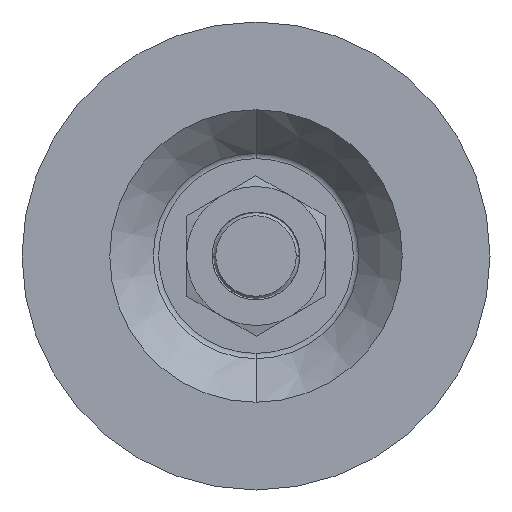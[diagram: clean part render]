
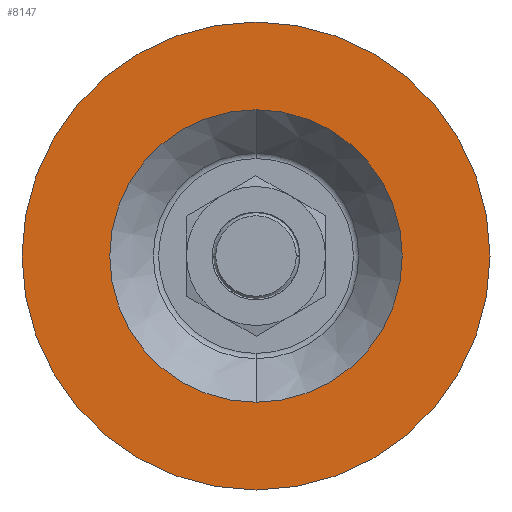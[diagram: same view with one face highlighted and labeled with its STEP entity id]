
A CAD part, front view. The second image highlights one B-rep face of the part: STEP entity #8147.
In plain terms, the highlighted planar face has unit normal (0, -1, 0).
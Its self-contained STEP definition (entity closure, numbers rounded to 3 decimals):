
#252 = ORIENTED_EDGE ( 'NONE', *, *, #7590, .F. ) ;
#323 = CIRCLE ( 'NONE', #2765, 20. ) ;
#493 = CARTESIAN_POINT ( 'NONE',  ( 0., -2.8, 0. ) ) ;
#687 = DIRECTION ( 'NONE',  ( 0., -1., 0. ) ) ;
#1181 = DIRECTION ( 'NONE',  ( 0., 0., -1. ) ) ;
#1437 = DIRECTION ( 'NONE',  ( 0., -1., 0. ) ) ;
#1550 = AXIS2_PLACEMENT_3D ( 'NONE', #4985, #7001, #3038 ) ;
#1703 = VERTEX_POINT ( 'NONE', #7414 ) ;
#1841 = DIRECTION ( 'NONE',  ( 0., 0., -1. ) ) ;
#1981 = CARTESIAN_POINT ( 'NONE',  ( 0., -2.8, -20. ) ) ;
#2186 = FACE_BOUND ( 'NONE', #4468, .T. ) ;
#2644 = CARTESIAN_POINT ( 'NONE',  ( 0., -2.8, 0. ) ) ;
#2765 = AXIS2_PLACEMENT_3D ( 'NONE', #493, #3746, #1181 ) ;
#3038 = DIRECTION ( 'NONE',  ( 0., 0., -1. ) ) ;
#3057 = ORIENTED_EDGE ( 'NONE', *, *, #4415, .T. ) ;
#3123 = FACE_OUTER_BOUND ( 'NONE', #7190, .T. ) ;
#3328 = PLANE ( 'NONE',  #7199 ) ;
#3523 = CIRCLE ( 'NONE', #7257, 32. ) ;
#3746 = DIRECTION ( 'NONE',  ( 0., -1., 0. ) ) ;
#3783 = ORIENTED_EDGE ( 'NONE', *, *, #6109, .F. ) ;
#3927 = DIRECTION ( 'NONE',  ( 0., -1., 0. ) ) ;
#3983 = DIRECTION ( 'NONE',  ( 0., 0., -1. ) ) ;
#4297 = CIRCLE ( 'NONE', #8523, 20. ) ;
#4415 = EDGE_CURVE ( 'NONE', #6844, #1703, #7699, .T. ) ;
#4468 = EDGE_LOOP ( 'NONE', ( #3783, #252 ) ) ;
#4985 = CARTESIAN_POINT ( 'NONE',  ( 0., -2.8, 0. ) ) ;
#5793 = EDGE_CURVE ( 'NONE', #1703, #6844, #3523, .T. ) ;
#5830 = CARTESIAN_POINT ( 'NONE',  ( 0., -2.8, 20. ) ) ;
#6067 = DIRECTION ( 'NONE',  ( 0., 0., -1. ) ) ;
#6109 = EDGE_CURVE ( 'NONE', #7821, #6818, #323, .T. ) ;
#6818 = VERTEX_POINT ( 'NONE', #5830 ) ;
#6844 = VERTEX_POINT ( 'NONE', #8078 ) ;
#7001 = DIRECTION ( 'NONE',  ( 0., -1., 0. ) ) ;
#7182 = CARTESIAN_POINT ( 'NONE',  ( 32., -2.8, 0. ) ) ;
#7190 = EDGE_LOOP ( 'NONE', ( #3057, #7452 ) ) ;
#7199 = AXIS2_PLACEMENT_3D ( 'NONE', #7182, #687, #3983 ) ;
#7201 = CARTESIAN_POINT ( 'NONE',  ( 0., -2.8, 0. ) ) ;
#7257 = AXIS2_PLACEMENT_3D ( 'NONE', #7201, #3927, #1841 ) ;
#7414 = CARTESIAN_POINT ( 'NONE',  ( 0., -2.8, 32. ) ) ;
#7452 = ORIENTED_EDGE ( 'NONE', *, *, #5793, .T. ) ;
#7590 = EDGE_CURVE ( 'NONE', #6818, #7821, #4297, .T. ) ;
#7699 = CIRCLE ( 'NONE', #1550, 32. ) ;
#7821 = VERTEX_POINT ( 'NONE', #1981 ) ;
#8078 = CARTESIAN_POINT ( 'NONE',  ( 0., -2.8, -32. ) ) ;
#8147 = ADVANCED_FACE ( 'NONE', ( #3123, #2186 ), #3328, .T. ) ;
#8523 = AXIS2_PLACEMENT_3D ( 'NONE', #2644, #1437, #6067 ) ;
